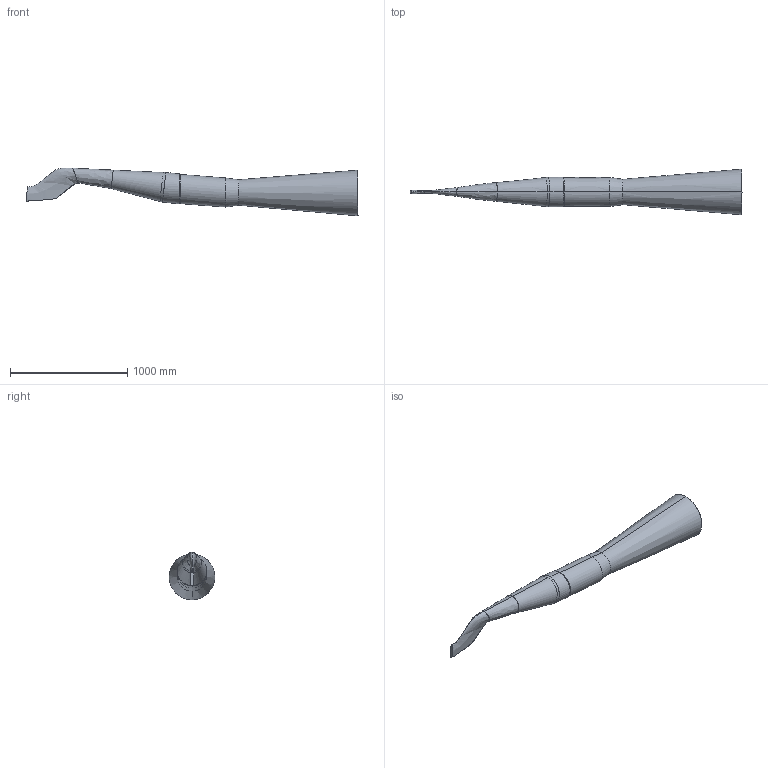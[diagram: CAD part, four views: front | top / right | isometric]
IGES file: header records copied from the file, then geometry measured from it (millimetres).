
Global section: file name: Z:\prj2.1\wind_tunnels\NTF\outgoing\geometry\Rumsey\NTF_USS_Sting_2024_08_15\NTF_USS_Sting_noRotation_2024_08_15.igs; native system: NX V12.0; preprocessor: SIEMENS PLM Software NX 12.0; date: 20240815.175052; units: inch
Bounding box: 2831.31 x 388.73 x 405.94 mm (x, y, z)
Surface area: 2180491.6 mm2 (no closed solid volume)
Topology: 0 solids, 0 shells, 24 faces, 187 edges, 185 vertices
Faces by surface type: bspline 24
